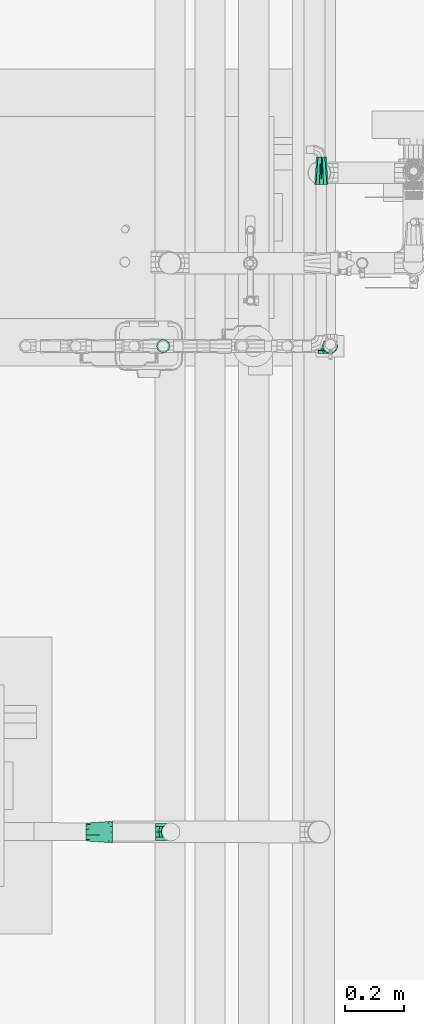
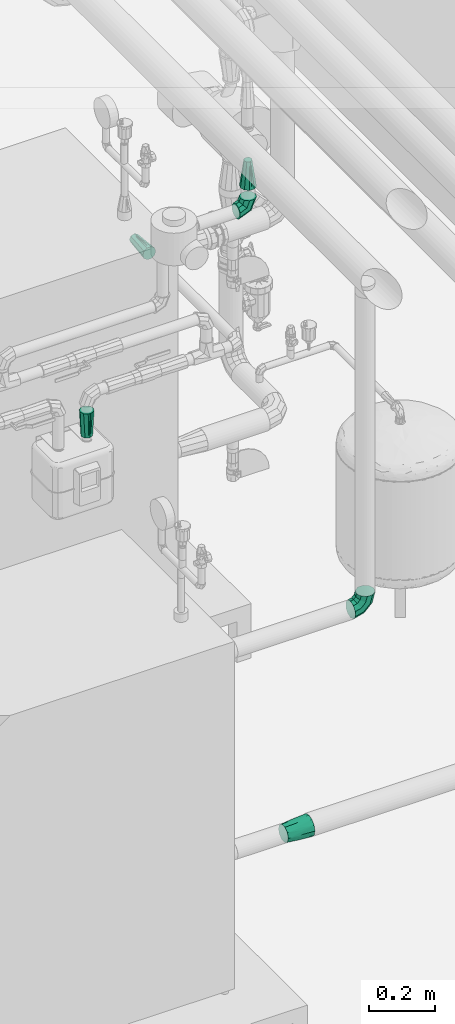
# One storey, part 32 of 43: 6 flow fittings.
"""IFC2X3 building model written with IfcOpenShell, lengths in millimetres."""

from ifc_helpers import new_model, entity, si_unit, converted_unit, derived_unit, direction, frame, origin, place, context, subcontext, project, spatial, faceted_brep, source, transform, mapped, material, material_list, type_object, type_shapes, element, save


model = new_model("IFC2X3")

# Units and contexts
model_context = context("Model", 3, precision=0.01, world=origin(), true_north=direction((6.123031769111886e-17, 1.0)))
body_context = subcontext(model_context, "Body", "Model", "MODEL_VIEW")
ifc_project = project(units=[si_unit("LENGTHUNIT", "METRE", prefix="MILLI"), si_unit("AREAUNIT", "SQUARE_METRE"), si_unit("VOLUMEUNIT", "CUBIC_METRE"), converted_unit("PLANEANGLEUNIT", "DEGREE", entity("IfcRatioMeasure", 0.017453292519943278), si_unit("PLANEANGLEUNIT", "RADIAN"), dimensions=[0, 0, 0, 0, 0, 0, 0]), si_unit("MASSUNIT", "GRAM", prefix="KILO"), derived_unit("MASSDENSITYUNIT", [(si_unit("MASSUNIT", "GRAM", prefix="KILO"), 1), (si_unit("LENGTHUNIT", "METRE"), -3)]), derived_unit("MOMENTOFINERTIAUNIT", [(si_unit("LENGTHUNIT", "METRE"), 4)]), si_unit("TIMEUNIT", "SECOND"), si_unit("FREQUENCYUNIT", "HERTZ"), si_unit("THERMODYNAMICTEMPERATUREUNIT", "DEGREE_CELSIUS"), derived_unit("THERMALTRANSMITTANCEUNIT", [(si_unit("MASSUNIT", "GRAM", prefix="KILO"), 1), (si_unit("THERMODYNAMICTEMPERATUREUNIT", "KELVIN"), -1), (si_unit("TIMEUNIT", "SECOND"), -3)]), derived_unit("VOLUMETRICFLOWRATEUNIT", [(si_unit("LENGTHUNIT", "METRE"), 3), (si_unit("TIMEUNIT", "SECOND"), -1)]), derived_unit("MASSFLOWRATEUNIT", [(si_unit("MASSUNIT", "GRAM", prefix="KILO"), 1), (si_unit("TIMEUNIT", "SECOND"), -1)]), derived_unit("ROTATIONALFREQUENCYUNIT", [(si_unit("TIMEUNIT", "SECOND"), -1)]), si_unit("ELECTRICCURRENTUNIT", "AMPERE"), si_unit("ELECTRICVOLTAGEUNIT", "VOLT"), si_unit("POWERUNIT", "WATT"), si_unit("FORCEUNIT", "NEWTON", prefix="KILO"), si_unit("ILLUMINANCEUNIT", "LUX"), si_unit("LUMINOUSFLUXUNIT", "LUMEN"), si_unit("LUMINOUSINTENSITYUNIT", "CANDELA"), derived_unit("USERDEFINED", [(si_unit("MASSUNIT", "GRAM", prefix="KILO"), -1), (si_unit("LENGTHUNIT", "METRE"), -2), (si_unit("TIMEUNIT", "SECOND"), 3), (si_unit("LUMINOUSFLUXUNIT", "LUMEN"), 1)]), derived_unit("SOUNDPOWERUNIT", [(si_unit("MASSUNIT", "GRAM", prefix="KILO"), 1), (si_unit("LENGTHUNIT", "METRE"), 2), (si_unit("TIMEUNIT", "SECOND"), -3)]), derived_unit("SOUNDPRESSUREUNIT", [(si_unit("MASSUNIT", "GRAM", prefix="KILO"), 1), (si_unit("LENGTHUNIT", "METRE"), -1), (si_unit("TIMEUNIT", "SECOND"), -2)]), derived_unit("LINEARVELOCITYUNIT", [(si_unit("LENGTHUNIT", "METRE"), 1), (si_unit("TIMEUNIT", "SECOND"), -1)]), si_unit("PRESSUREUNIT", "PASCAL"), derived_unit("USERDEFINED", [(si_unit("LENGTHUNIT", "METRE"), -2), (si_unit("MASSUNIT", "GRAM", prefix="KILO"), 1), (si_unit("TIMEUNIT", "SECOND"), -2)]), derived_unit("LINEARFORCEUNIT", [(si_unit("MASSUNIT", "GRAM", prefix="KILO"), 1), (si_unit("LENGTHUNIT", "METRE"), 1), (si_unit("TIMEUNIT", "SECOND"), -2), (si_unit("LENGTHUNIT", "METRE"), -1)]), derived_unit("PLANARFORCEUNIT", [(si_unit("MASSUNIT", "GRAM", prefix="KILO"), 1), (si_unit("LENGTHUNIT", "METRE"), 1), (si_unit("TIMEUNIT", "SECOND"), -2), (si_unit("LENGTHUNIT", "METRE"), -2)])], contexts=[model_context])

# Site, building, storey
site_placement = place(None, origin())
site = spatial("IfcSite", under=ifc_project, at=site_placement, Name="Default", CompositionType="ELEMENT")
building_placement = place(site_placement, origin())
building = spatial("IfcBuilding", under=site, at=building_placement, CompositionType="ELEMENT")
storey_placement = place(building_placement, frame((0.0, 0.0, 270.0)))
storey = spatial("IfcBuildingStorey", under=building, at=storey_placement, Name="Niveau 0", CompositionType="ELEMENT", Elevation=270.0)

# Flow fittings
ifc_material = material(Name="<Unnamed>")
pipe_fitting_type_1 = type_object("IfcPipeFittingType", Name="Transformation - Générique:Standard", PredefinedType="NOTDEFINED", material=ifc_material)
shared_shape_1 = source(origin(), body_context, "Body", "Brep", [
    faceted_brep([(89.0, 31.795140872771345, 18.250000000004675), (89.0, 25.115177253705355, 24.92996361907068), (89.0, 18.43521363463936, 31.609927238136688), (89.0, 9.310213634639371, 34.05496361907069), (89.0, 0.18521363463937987, 36.500000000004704), (89.0, -8.93978636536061, 34.054963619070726), (89.0, -18.064786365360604, 31.609927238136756), (89.0, -24.74474998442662, 24.929963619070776), (89.0, -31.424713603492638, 18.250000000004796), (89.0, -33.86974998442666, 9.125000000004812), (89.0, -36.31478636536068, 0.0), (89.0, -33.86974998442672, -9.124999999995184), (89.0, -31.424713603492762, -18.249999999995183), (89.0, -24.7447499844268, -24.9299636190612), (89.0, -18.064786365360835, -31.60992723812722), (89.0, -8.939786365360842, -34.05496361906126), (89.0, 0.1852136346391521, -36.4999999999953), (89.0, 9.310213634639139, -34.05496361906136), (89.0, 18.435213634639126, -31.609927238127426), (89.0, 25.115177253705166, -24.92996361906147), (89.0, 31.79514087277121, -18.24999999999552), (89.0, 34.24017725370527, -9.124999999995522), (89.0, 36.685213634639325, 0.0), (89.0, 34.24017725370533, 9.125000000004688), (0.0, -30.15, 0.0), (0.0, -27.27093119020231, 8.860862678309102), (0.0, -24.39186238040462, 17.72172535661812), (0.0, -16.854362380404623, 23.198039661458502), (0.0, -9.316862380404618, 28.674353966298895), (0.0, 0.0, 28.67435396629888), (0.0, 9.316862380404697, 28.67435396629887), (0.0, 16.854362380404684, 23.198039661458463), (0.0, 24.391862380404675, 17.72172535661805), (0.0, 27.270931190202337, 8.860862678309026), (0.0, 30.15, 0.0), (0.0, 27.270931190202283, -8.860862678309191), (0.0, 24.391862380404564, -17.721725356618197), (0.0, 16.85436238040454, -23.19803966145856), (0.0, 9.316862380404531, -28.67435396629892), (0.0, 0.0, -28.67435396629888), (0.0, -9.316862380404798, -28.67435396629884), (0.0, -16.854362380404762, -23.19803966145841), (0.0, -24.391862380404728, -17.721725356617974), (0.0, -27.27093119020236, -8.860862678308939), (42.752847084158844, -32.22508481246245, -7.620014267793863), (42.45671230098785, -29.995724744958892, -13.993157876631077), (48.81344758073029, -10.22721723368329, -32.00747157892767), (39.138828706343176, -15.405505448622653, -29.075106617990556), (49.366075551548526, -26.611207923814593, -20.4983284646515), (44.37529921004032, -21.5787039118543, -25.304707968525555), (44.37530003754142, 25.397055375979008, -21.671051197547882), (39.13882756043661, 29.15655672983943, -15.486954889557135), (44.500000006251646, -4.257178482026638, -33.03990001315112), (45.84288008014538, 10.967168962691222, -31.60309099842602), (49.366075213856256, 20.601061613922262, -26.713941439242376), (44.721437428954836, 31.99238002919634, -9.697564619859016), (44.50000006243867, 4.442392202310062, -33.039900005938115), (44.50000000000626, -33.23239318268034, 0.0), (40.79708963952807, -32.975902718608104, 0.0), (40.79708963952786, 33.14570445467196, 0.0), (44.50000000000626, 33.41760681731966, 0.0), (42.752847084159, 32.40302661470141, 7.620014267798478), (42.45671230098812, 30.172434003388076, 13.993157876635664), (48.8134475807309, 10.430383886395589, 32.00747157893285), (39.13882870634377, 15.568405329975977, 29.075106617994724), (49.36607555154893, 26.81667467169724, 20.498328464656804), (44.37529921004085, 21.76339852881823, 25.30470796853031), (44.37530003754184, -25.212360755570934, 21.671051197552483), (39.13882756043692, -28.99365685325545, 15.486954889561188), (44.500000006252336, 4.442392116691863, 33.03990001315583), (45.84288008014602, -10.776366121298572, 31.603090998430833), (49.36607521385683, -20.39559486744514, 26.713941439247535), (44.72143742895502, -31.806244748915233, 9.697564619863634), (44.500000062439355, -4.257178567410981, 33.039900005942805)], [[[0, 1, 2, 3, 4, 5, 6, 7, 8, 9, 10, 11, 12, 13, 14, 15, 16, 17, 18, 19, 20, 21, 22, 23]], [[24, 25, 26, 27, 28, 29, 30, 31, 32, 33, 34, 35, 36, 37, 38, 39, 40, 41, 42, 43]], [[44, 45, 11]], [[14, 46, 15]], [[41, 40, 47]], [[13, 48, 49]], [[42, 49, 48]], [[50, 51, 20]], [[45, 48, 12]], [[49, 14, 13]], [[15, 52, 16]], [[48, 45, 42]], [[53, 37, 54]], [[43, 45, 44]], [[45, 12, 11]], [[55, 51, 35]], [[12, 48, 13]], [[16, 56, 17]], [[44, 10, 57, 58, 24]], [[53, 54, 18]], [[59, 55, 34]], [[49, 42, 41]], [[42, 45, 43]], [[39, 52, 40]], [[39, 38, 56]], [[49, 41, 47]], [[47, 14, 49]], [[40, 52, 46]], [[14, 47, 46]], [[53, 17, 56]], [[56, 16, 52]], [[24, 43, 44]], [[52, 15, 46]], [[56, 52, 39]], [[53, 56, 38]], [[19, 54, 50]], [[18, 17, 53]], [[53, 38, 37]], [[20, 19, 50]], [[18, 54, 19]], [[50, 37, 36]], [[37, 50, 54]], [[50, 36, 51]], [[36, 35, 51]], [[59, 21, 55]], [[55, 35, 34]], [[20, 51, 55]], [[21, 59, 60, 22]], [[20, 55, 21]], [[10, 44, 11]], [[40, 46, 47]], [[61, 62, 23]], [[2, 63, 3]], [[31, 30, 64]], [[1, 65, 66]], [[32, 66, 65]], [[67, 68, 8]], [[62, 65, 0]], [[66, 2, 1]], [[3, 69, 4]], [[65, 62, 32]], [[70, 27, 71]], [[33, 62, 61]], [[62, 0, 23]], [[72, 68, 25]], [[0, 65, 1]], [[4, 73, 5]], [[61, 22, 60, 59, 34]], [[70, 71, 6]], [[58, 72, 24]], [[66, 32, 31]], [[32, 62, 33]], [[29, 69, 30]], [[29, 28, 73]], [[66, 31, 64]], [[64, 2, 66]], [[30, 69, 63]], [[2, 64, 63]], [[70, 5, 73]], [[73, 4, 69]], [[34, 33, 61]], [[69, 3, 63]], [[73, 69, 29]], [[70, 73, 28]], [[7, 71, 67]], [[6, 5, 70]], [[70, 28, 27]], [[8, 7, 67]], [[6, 71, 7]], [[67, 27, 26]], [[27, 67, 71]], [[67, 26, 68]], [[26, 25, 68]], [[58, 9, 72]], [[72, 25, 24]], [[8, 68, 72]], [[9, 58, 57, 10]], [[8, 72, 9]], [[22, 61, 23]], [[30, 63, 64]]]),
])
type_shapes(pipe_fitting_type_1, [shared_shape_1])
flow_fitting_1_placement = place(storey_placement, frame((-2785.26625610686, -11531.554320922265, 583.499999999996), z_axis=(0.0, 0.0, 1.0), x_axis=(0.9999991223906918, -0.0013248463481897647, 0.0)))
element("IfcFlowFitting", 1, at=flow_fitting_1_placement, inside=storey, type_object=pipe_fitting_type_1, material=ifc_material, Name="Transformation - Générique:Standard", ObjectType="Transformation - Générique:Standard", context=body_context, shape_type="MappedRepresentation", body=[
    mapped(shared_shape_1, transform((0.0, 0.0, 0.0), scale=1.0)),
])
ifc_material_list_1 = material_list([ifc_material, ifc_material])
ifc_material_list_2 = material_list([ifc_material, ifc_material])
pipe_fitting_type_2 = type_object("IfcPipeFittingType", Name="Coude - Générique:Standard", PredefinedType="NOTDEFINED", material=ifc_material_list_2)
shared_shape_2 = source(origin(), body_context, "Body", "Brep", [
    faceted_brep([(19.277961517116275, 10.424999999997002, 0.0), (14.291268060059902, 13.304068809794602, -17.72172535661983), (24.391862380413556, 51.0, -17.72172535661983), (30.150000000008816, 51.0, 0.0), (1.2359350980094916, 20.841568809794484, -28.674353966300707), (9.316862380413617, 51.0, -28.674353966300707), (-14.901343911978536, 30.15843119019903, -28.674353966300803), (-9.316862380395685, 51.0, -28.674353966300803), (-27.956676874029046, 37.69593119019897, -17.721725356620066), (-24.391862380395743, 51.0, -17.721725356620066), (-32.94337033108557, 40.57499999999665, 0.0), (-30.149999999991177, 51.0, 0.0), (-27.956676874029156, 37.69593119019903, 17.721725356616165), (-24.391862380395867, 51.0, 17.721725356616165), (-14.90134391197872, 30.158431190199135, 28.67435396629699), (-9.316862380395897, 51.0, 28.67435396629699), (1.235935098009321, 20.841568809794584, 28.674353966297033), (9.316862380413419, 51.0, 28.674353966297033), (14.291268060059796, 13.304068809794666, 17.721725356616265), (24.391862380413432, 51.0, 17.721725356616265), (-10.424999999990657, -19.277961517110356, 0.0), (-13.304068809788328, -14.291268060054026, -17.72172535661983), (-20.841568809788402, -1.2359350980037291, -28.674353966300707), (-30.158431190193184, 14.90134391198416, -28.674353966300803), (-37.69593119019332, 27.95667687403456, -17.721725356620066), (-40.57499999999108, 32.94337033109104, 0.0), (-37.695931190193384, 27.95667687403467, 17.721725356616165), (-30.15843119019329, 14.901343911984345, 28.67435396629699), (-20.8415688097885, -1.2359350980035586, 28.674353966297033), (-13.304068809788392, -14.29126806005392, 17.721725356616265), (-51.0, -30.1500000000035, 0.0), (-51.0, -24.39186238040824, -17.72172535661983), (-51.0, -9.316862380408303, -28.674353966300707), (-51.0, 9.316862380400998, -28.674353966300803), (-51.0, 24.391862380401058, -17.721725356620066), (-51.0, 30.149999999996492, 0.0), (-51.0, 24.39186238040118, 17.721725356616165), (-51.0, 9.316862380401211, 28.67435396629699), (-51.0, -9.316862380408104, 28.674353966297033), (-51.0, -24.391862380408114, 17.721725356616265)], [[[0, 1, 2, 3]], [[1, 4, 5, 2]], [[4, 6, 7, 5]], [[6, 8, 9, 7]], [[8, 10, 11, 9]], [[10, 12, 13, 11]], [[12, 14, 15, 13]], [[14, 16, 17, 15]], [[16, 18, 19, 17]], [[18, 0, 3, 19]], [[20, 21, 1, 0]], [[21, 22, 4, 1]], [[22, 23, 6, 4]], [[23, 24, 8, 6]], [[24, 25, 10, 8]], [[25, 26, 12, 10]], [[26, 27, 14, 12]], [[27, 28, 16, 14]], [[28, 29, 18, 16]], [[29, 20, 0, 18]], [[30, 31, 21, 20]], [[31, 32, 22, 21]], [[32, 33, 23, 22]], [[33, 34, 24, 23]], [[34, 35, 25, 24]], [[35, 36, 26, 25]], [[36, 37, 27, 26]], [[37, 38, 28, 27]], [[38, 39, 29, 28]], [[39, 30, 20, 29]], [[3, 2, 5, 7, 9, 11, 13, 15, 17, 19]], [[39, 38, 37, 36, 35, 34, 33, 32, 31, 30]]]),
])
type_shapes(pipe_fitting_type_2, [shared_shape_2])
flow_fitting_2_placement = place(storey_placement, frame((-2499.9998786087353, -11530.9462133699, 1326.500000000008), z_axis=(-0.0015018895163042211, -0.9999988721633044, 0.0), x_axis=(0.9999988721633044, -0.0015018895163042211, 0.0)))
element("IfcFlowFitting", 2, at=flow_fitting_2_placement, inside=storey, type_object=pipe_fitting_type_2, material=ifc_material_list_1, Name="Coude - Générique:Standard", ObjectType="Coude - Générique:Standard", context=body_context, shape_type="MappedRepresentation", body=[
    mapped(shared_shape_2, transform((0.0, 0.0, 0.0), scale=1.0)),
])
pipe_fitting_type_3 = type_object("IfcPipeFittingType", Name="Transformation - Générique:Standard", PredefinedType="NOTDEFINED", material=ifc_material)
shared_shape_3 = source(origin(), body_context, "Body", "Brep", [
    faceted_brep([(91.44531250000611, 18.37195428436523, -13.348006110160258), (91.44531250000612, 19.456211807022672, -10.011004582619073), (91.44531250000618, 20.540469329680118, -6.674003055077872), (91.44531250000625, 22.708984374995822, 0.0), (91.44531250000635, 20.540469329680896, 6.674003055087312), (91.44531250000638, 18.371954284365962, 13.348006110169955), (91.44531250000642, 15.533331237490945, 15.4103864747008), (91.44531250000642, 12.694708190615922, 17.472766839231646), (91.44531250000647, 7.017462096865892, 21.597527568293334), (91.44531250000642, 0.0, 21.5975275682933), (91.44531250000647, -7.017462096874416, 21.597527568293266), (91.44531250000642, -12.694708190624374, 17.472766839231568), (91.44531250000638, -18.371954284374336, 13.348006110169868), (91.44531250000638, -19.456211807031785, 10.011004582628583), (91.44531250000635, -20.540469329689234, 6.67400305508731), (91.44531250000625, -22.70898437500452, 0.0), (91.44531250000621, -20.540469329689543, -6.674003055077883), (91.44531250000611, -18.371954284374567, -13.348006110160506), (91.44531250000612, -15.533331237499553, -15.410386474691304), (91.44531250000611, -12.694708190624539, -17.472766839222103), (91.44531250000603, -7.017462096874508, -21.5975275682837), (91.44531250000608, 0.0, -21.597527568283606), (91.44531250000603, 7.017462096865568, -21.597527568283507), (91.44531250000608, 12.6947081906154, -17.472766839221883), (0.0, 16.699999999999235, 0.0), (0.0, 15.477170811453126, -2.9521708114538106), (0.0, 14.254341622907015, -5.904341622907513), (0.0, 13.031512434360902, -8.856512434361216), (0.0, 11.808683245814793, -11.808683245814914), (0.0, 8.856512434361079, -13.03151243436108), (0.0, 5.904341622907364, -14.254341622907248), (0.0, 2.95217081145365, -15.477170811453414), (0.0, 0.0, -16.69999999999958), (0.0, -2.952170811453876, -15.477170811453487), (0.0, -5.904341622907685, -14.254341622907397), (0.0, -8.856512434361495, -13.031512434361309), (0.0, -11.808683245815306, -11.808683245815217), (0.0, -13.03151243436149, -8.856512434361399), (0.0, -14.254341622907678, -5.904341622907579), (0.0, -15.477170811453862, -2.952170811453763), (0.0, -16.699999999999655, 0.0), (0.0, -15.477170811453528, 2.952170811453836), (0.0, -14.2543416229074, 5.9043416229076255), (0.0, -13.031512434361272, 8.856512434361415), (0.0, -11.808683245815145, 11.808683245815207), (0.0, -8.856512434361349, 13.031512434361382), (0.0, -5.904341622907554, 14.25434162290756), (0.0, -2.9521708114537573, 15.477170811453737), (0.0, 0.0, 16.699999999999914), (0.0, 2.952170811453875, 15.477170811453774), (0.0, 5.904341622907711, 14.254341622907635), (0.0, 8.856512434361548, 13.031512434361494), (0.0, 11.808683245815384, 11.808683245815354), (0.0, 13.031512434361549, 8.856512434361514), (0.0, 14.254341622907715, 5.904341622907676), (0.0, 15.47717081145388, 2.952170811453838)], [[[0, 1, 2, 3, 4, 5, 6, 7, 8, 9, 10, 11, 12, 13, 14, 15, 16, 17, 18, 19, 20, 21, 22, 23]], [[24, 25, 26, 27, 28, 29, 30, 31, 32, 33, 34, 35, 36, 37, 38, 39, 40, 41, 42, 43, 44, 45, 46, 47, 48, 49, 50, 51, 52, 53, 54, 55]], [[0, 28, 27]], [[38, 17, 16]], [[36, 19, 18, 17]], [[26, 2, 1]], [[20, 19, 34]], [[21, 31, 22]], [[20, 33, 21]], [[21, 33, 32]], [[35, 34, 19, 36]], [[15, 39, 16]], [[3, 25, 24]], [[28, 0, 23]], [[23, 30, 29, 28]], [[3, 2, 25]], [[39, 15, 40]], [[17, 38, 37, 36]], [[31, 30, 22]], [[31, 21, 32]], [[20, 34, 33]], [[26, 25, 2]], [[0, 27, 1]], [[27, 26, 1]], [[30, 23, 22]], [[39, 38, 16]], [[12, 44, 43]], [[54, 5, 4]], [[52, 7, 6, 5]], [[42, 14, 13]], [[8, 7, 50]], [[9, 47, 10]], [[8, 49, 9]], [[9, 49, 48]], [[51, 50, 7, 52]], [[3, 55, 4]], [[15, 41, 40]], [[44, 12, 11]], [[11, 46, 45, 44]], [[15, 14, 41]], [[55, 3, 24]], [[5, 54, 53, 52]], [[47, 46, 10]], [[47, 9, 48]], [[8, 50, 49]], [[42, 41, 14]], [[12, 43, 13]], [[43, 42, 13]], [[46, 11, 10]], [[55, 54, 4]]]),
])
type_shapes(pipe_fitting_type_3, [shared_shape_3])
flow_fitting_3_placement = place(storey_placement, frame((-1992.600009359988, -9257.499999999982, 1120.5000000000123), z_axis=(0.0, 0.0, 1.0), x_axis=(0.0, -1.0, 0.0)))
element("IfcFlowFitting", 3, at=flow_fitting_3_placement, inside=storey, type_object=pipe_fitting_type_3, material=ifc_material, Name="Transformation - Générique:Standard", ObjectType="Transformation - Générique:Standard", context=body_context, shape_type="MappedRepresentation", body=[
    mapped(shared_shape_3, transform((0.0, 0.0, 0.0), scale=1.0)),
])
pipe_fitting_type_4 = type_object("IfcPipeFittingType", Name="Transformation - Générique:Standard", PredefinedType="NOTDEFINED", material=ifc_material)
shared_shape_4 = source(origin(), body_context, "Body", "Brep", [
    faceted_brep([(91.44531250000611, 18.37195428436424, -13.348006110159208), (91.44531250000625, 19.456211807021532, -10.011004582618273), (91.44531250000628, 20.540469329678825, -6.674003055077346), (91.44531250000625, 22.70898437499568, 0.0), (91.44531250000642, 20.540469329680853, 6.6740030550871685), (91.44531250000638, 18.371954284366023, 13.348006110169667), (91.44531250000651, 15.533331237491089, 15.410386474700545), (91.44531250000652, 12.694708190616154, 17.47276683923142), (91.44531250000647, 7.017462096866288, 21.59752756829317), (91.44531250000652, 0.0, 21.59752756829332), (91.44531250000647, -7.017462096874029, 21.597527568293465), (91.44531250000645, -12.694708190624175, 17.47276683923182), (91.44531250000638, -18.371954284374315, 13.348006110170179), (91.44531250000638, -19.45621180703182, 10.011004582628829), (91.44531250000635, -20.54046932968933, 6.674003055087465), (91.44531250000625, -22.708984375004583, 0.0), (91.44531250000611, -20.540469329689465, -6.674003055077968), (91.44531250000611, -18.371954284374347, -13.348006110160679), (91.44531250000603, -15.533331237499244, -15.410386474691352), (91.44531250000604, -12.694708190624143, -17.472766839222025), (91.44531250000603, -7.017462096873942, -21.597527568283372), (91.44531250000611, 0.0, -21.597527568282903), (91.44531250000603, 7.017462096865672, -21.59752756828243), (91.44531250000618, 12.694708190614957, -17.472766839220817), (0.0, 18.708984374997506, 0.0), (0.0, 17.33905071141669, -3.307312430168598), (0.0, 15.96911704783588, -6.614624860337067), (0.0, 14.599183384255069, -9.921937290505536), (0.0, 13.229249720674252, -13.229249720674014), (0.0, 9.921937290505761, -14.599183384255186), (0.0, 6.614624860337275, -15.969117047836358), (0.0, 3.307312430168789, -17.339050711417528), (0.0, 0.0, -18.7089843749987), (0.0, -3.3073124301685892, -17.3390507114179), (0.0, -6.61462486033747, -15.969117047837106), (0.0, -9.921937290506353, -14.59918338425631), (0.0, -13.229249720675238, -13.229249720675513), (0.0, -14.599183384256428, -9.921937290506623), (0.0, -15.969117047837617, -6.614624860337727), (0.0, -17.33905071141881, -3.3073124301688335), (0.0, -18.708984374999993, 0.0), (0.0, -17.33905071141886, 3.3073124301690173), (0.0, -15.969117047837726, 6.614624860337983), (0.0, -14.599183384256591, 9.921937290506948), (0.0, -13.229249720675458, 13.229249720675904), (0.0, -9.921937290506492, 14.599183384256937), (0.0, -6.6146248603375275, 15.969117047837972), (0.0, -3.307312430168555, 17.339050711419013), (0.0, 0.0, 18.708984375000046), (0.0, 3.3073124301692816, 17.339050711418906), (0.0, 6.614624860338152, 15.969117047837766), (0.0, 9.921937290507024, 14.599183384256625), (0.0, 13.229249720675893, 13.229249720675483), (0.0, 14.599183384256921, 9.921937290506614), (0.0, 15.969117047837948, 6.614624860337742), (0.0, 17.339050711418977, 3.307312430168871)], [[[0, 1, 2, 3, 4, 5, 6, 7, 8, 9, 10, 11, 12, 13, 14, 15, 16, 17, 18, 19, 20, 21, 22, 23]], [[24, 25, 26, 27, 28, 29, 30, 31, 32, 33, 34, 35, 36, 37, 38, 39, 40, 41, 42, 43, 44, 45, 46, 47, 48, 49, 50, 51, 52, 53, 54, 55]], [[0, 28, 27]], [[38, 17, 16]], [[36, 19, 18, 17]], [[26, 2, 1]], [[20, 19, 34]], [[21, 31, 22]], [[20, 33, 21]], [[21, 33, 32]], [[35, 34, 19, 36]], [[17, 38, 37, 36]], [[3, 25, 24]], [[28, 0, 23]], [[23, 30, 29, 28]], [[3, 2, 25]], [[15, 39, 16]], [[31, 30, 22]], [[31, 21, 32]], [[20, 34, 33]], [[39, 15, 40]], [[26, 25, 2]], [[0, 27, 1]], [[27, 26, 1]], [[30, 23, 22]], [[39, 38, 16]], [[12, 44, 43]], [[54, 5, 4]], [[52, 7, 6, 5]], [[42, 14, 13]], [[8, 7, 50]], [[9, 47, 10]], [[8, 49, 9]], [[9, 49, 48]], [[51, 50, 7, 52]], [[5, 54, 53, 52]], [[15, 41, 40]], [[44, 12, 11]], [[11, 46, 45, 44]], [[15, 14, 41]], [[3, 55, 4]], [[47, 46, 10]], [[47, 9, 48]], [[8, 50, 49]], [[55, 3, 24]], [[42, 41, 14]], [[12, 43, 13]], [[43, 42, 13]], [[46, 11, 10]], [[55, 54, 4]]]),
])
type_shapes(pipe_fitting_type_4, [shared_shape_4])
flow_fitting_4_placement = place(storey_placement, frame((-2525.5000000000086, -9894.089173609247, 968.8269224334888), z_axis=(0.0, -1.0, 0.0), x_axis=(0.0, 0.0, 1.0)))
element("IfcFlowFitting", 4, at=flow_fitting_4_placement, inside=storey, type_object=pipe_fitting_type_4, material=ifc_material, Name="Transformation - Générique:Standard", ObjectType="Transformation - Générique:Standard", context=body_context, shape_type="MappedRepresentation", body=[
    mapped(shared_shape_4, transform((0.0, 0.0, 0.0), scale=1.0)),
])
pipe_fitting_type_5 = type_object("IfcPipeFittingType", Name="Transformation - Générique:Standard", PredefinedType="NOTDEFINED", material=ifc_material)
shared_shape_5 = source(origin(), body_context, "Body", "Brep", [
    faceted_brep([(95.64531250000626, -26.208984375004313, 0.0), (95.64531250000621, -23.706249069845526, -7.702627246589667), (95.6453125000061, -21.203513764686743, -15.405254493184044), (95.64531250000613, -17.92739071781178, -17.785497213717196), (95.64531250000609, -14.651267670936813, -20.165739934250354), (95.645312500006, -8.099021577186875, -24.926225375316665), (95.64531250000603, 0.0, -24.926225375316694), (95.645312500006, 8.099021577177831, -24.926225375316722), (95.6453125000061, 14.651267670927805, -20.165739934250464), (95.6453125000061, 21.20351376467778, -15.4052544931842), (95.64531250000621, 22.454881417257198, -11.553940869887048), (95.64531250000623, 23.70624906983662, -7.702627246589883), (95.64531250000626, 26.208984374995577, 0.0), (95.64531250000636, 23.706249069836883, 7.7026272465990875), (95.64531250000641, 21.203513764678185, 15.405254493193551), (95.64531250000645, 17.92739071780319, 17.7854972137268), (95.64531250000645, 14.651267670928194, 20.16573993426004), (95.64531250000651, 8.099021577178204, 24.92622537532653), (95.64531250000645, 0.0, 24.926225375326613), (95.64531250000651, -8.09902157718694, 24.92622537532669), (95.64531250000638, -14.651267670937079, 20.165739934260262), (95.64531250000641, -21.203513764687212, 15.40525449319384), (95.64531250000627, -22.454881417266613, 11.553940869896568), (95.64531250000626, -23.706249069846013, 7.702627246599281), (0.0, -9.439875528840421, -9.439875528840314), (0.0, -10.41740664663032, -7.079906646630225), (0.0, -11.39493776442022, -4.719937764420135), (0.0, -12.37246888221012, -2.3599688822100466), (0.0, -13.350000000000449, 0.0), (0.0, -12.37246888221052, 2.3599688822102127), (0.0, -11.394937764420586, 4.719937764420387), (0.0, -10.417406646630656, 7.079906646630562), (0.0, -9.439875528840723, 9.439875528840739), (0.0, -7.079906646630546, 10.417406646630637), (0.0, -4.719937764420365, 11.394937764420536), (0.0, -2.359968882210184, 12.372468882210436), (0.0, 0.0, 13.350000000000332), (0.0, 2.359968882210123, 12.37246888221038), (0.0, 4.719937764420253, 11.394937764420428), (0.0, 7.079906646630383, 10.417406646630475), (0.0, 9.439875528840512, 9.439875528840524), (0.0, 10.41740664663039, 7.079906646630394), (0.0, 11.394937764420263, 4.719937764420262), (0.0, 12.372468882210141, 2.3599688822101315), (0.0, 13.349999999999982, 0.0), (0.0, 12.372468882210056, -2.3599688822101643), (0.0, 11.394937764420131, -4.719937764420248), (0.0, 10.417406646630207, -7.079906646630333), (0.0, 9.43987552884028, -9.439875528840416), (0.0, 7.079906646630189, -10.417406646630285), (0.0, 4.719937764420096, -11.394937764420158), (0.0, 2.359968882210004, -12.372468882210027), (0.0, 0.0, -13.349999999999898), (0.0, -2.359968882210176, -12.37246888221), (0.0, -4.719937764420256, -11.394937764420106), (0.0, -7.079906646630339, -10.41740664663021)], [[[0, 1, 2, 3, 4, 5, 6, 7, 8, 9, 10, 11, 12, 13, 14, 15, 16, 17, 18, 19, 20, 21, 22, 23]], [[24, 25, 26, 27, 28, 29, 30, 31, 32, 33, 34, 35, 36, 37, 38, 39, 40, 41, 42, 43, 44, 45, 46, 47, 48, 49, 50, 51, 52, 53, 54, 55]], [[9, 48, 47]], [[51, 50, 7]], [[24, 4, 3, 2]], [[46, 11, 10]], [[5, 4, 54]], [[0, 27, 1]], [[6, 53, 52]], [[55, 54, 4, 24]], [[6, 51, 7]], [[5, 53, 6]], [[2, 26, 25, 24]], [[12, 45, 44]], [[48, 9, 8]], [[8, 50, 49, 48]], [[12, 11, 45]], [[27, 0, 28]], [[5, 54, 53]], [[51, 6, 52]], [[26, 2, 1]], [[46, 45, 11]], [[9, 47, 10]], [[47, 46, 10]], [[50, 8, 7]], [[27, 26, 1]], [[21, 32, 31]], [[35, 34, 19]], [[40, 16, 15, 14]], [[30, 23, 22]], [[17, 16, 38]], [[12, 43, 13]], [[18, 37, 36]], [[39, 38, 16, 40]], [[18, 35, 19]], [[17, 37, 18]], [[14, 42, 41, 40]], [[0, 29, 28]], [[32, 21, 20]], [[20, 34, 33, 32]], [[0, 23, 29]], [[43, 12, 44]], [[17, 38, 37]], [[35, 18, 36]], [[42, 14, 13]], [[30, 29, 23]], [[21, 31, 22]], [[31, 30, 22]], [[34, 20, 19]], [[43, 42, 13]]]),
])
type_shapes(pipe_fitting_type_5, [shared_shape_5])
flow_fitting_5_placement = place(storey_placement, frame((-1963.487500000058, -9894.089173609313, 1785.826285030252), z_axis=(0.0, -1.0, 0.0), x_axis=(0.0, 0.0, -1.0)))
element("IfcFlowFitting", 5, at=flow_fitting_5_placement, inside=storey, type_object=pipe_fitting_type_5, material=ifc_material, Name="Transformation - Générique:Standard", ObjectType="Transformation - Générique:Standard", context=body_context, shape_type="MappedRepresentation", body=[
    mapped(shared_shape_5, transform((0.0, 0.0, 0.0), scale=1.0)),
])
ifc_material_list_3 = material_list([ifc_material, ifc_material])
ifc_material_list_4 = material_list([ifc_material, ifc_material])
pipe_fitting_type_6 = type_object("IfcPipeFittingType", Name="Coude - Générique:Standard", PredefinedType="NOTDEFINED", material=ifc_material_list_4)
shared_shape_6 = source(origin(), body_context, "Body", "Brep", [
    faceted_brep([(6.42091257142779, -6.420912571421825, 0.0), (2.8815103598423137, -2.881510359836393, -15.405254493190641), (21.203513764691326, 41.35171874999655, -15.405254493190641), (26.208984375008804, 41.35171874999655, 0.0), (-6.384764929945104, 6.384764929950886, -24.926225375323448), (8.099021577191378, 41.35171874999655, -24.926225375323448), (-17.838511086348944, 17.83851108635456, -24.92622537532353), (-8.099021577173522, 41.35171874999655, -24.92622537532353), (-27.10478637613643, 27.104786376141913, -15.405254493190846), (-21.203513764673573, 41.35171874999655, -15.405254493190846), (-30.644188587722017, 30.644188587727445, 0.0), (-26.2089843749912, 41.35171874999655, 0.0), (-27.104786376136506, 27.104786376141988, 15.405254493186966), (-21.20351376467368, 41.35171874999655, 15.405254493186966), (-17.838511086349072, 17.838511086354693, 24.926225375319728), (-8.099021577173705, 41.35171874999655, 24.926225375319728), (-6.384764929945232, 6.38476492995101, 24.926225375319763), (8.099021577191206, 41.35171874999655, 24.926225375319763), (2.8815103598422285, -2.881510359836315, 15.405254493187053), (21.20351376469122, 41.35171874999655, 15.405254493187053), (-41.35171874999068, -26.208984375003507, 0.0), (-41.351718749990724, -21.203513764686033, -15.405254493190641), (-41.351718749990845, -8.099021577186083, -24.926225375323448), (-41.35171874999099, 8.09902157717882, -24.92622537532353), (-41.3517187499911, 21.20351376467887, -15.405254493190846), (-41.35171874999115, 26.208984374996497, 0.0), (-41.3517187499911, 21.203513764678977, 15.405254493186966), (-41.35171874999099, 8.099021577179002, 24.926225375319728), (-41.351718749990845, -8.099021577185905, 24.926225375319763), (-41.351718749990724, -21.20351376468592, 15.405254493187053)], [[[0, 1, 2, 3]], [[1, 4, 5, 2]], [[4, 6, 7, 5]], [[6, 8, 9, 7]], [[8, 10, 11, 9]], [[10, 12, 13, 11]], [[12, 14, 15, 13]], [[14, 16, 17, 15]], [[16, 18, 19, 17]], [[18, 0, 3, 19]], [[20, 21, 1, 0]], [[21, 22, 4, 1]], [[22, 23, 6, 4]], [[23, 24, 8, 6]], [[24, 25, 10, 8]], [[25, 26, 12, 10]], [[26, 27, 14, 12]], [[27, 28, 16, 14]], [[28, 29, 18, 16]], [[29, 20, 0, 18]], [[3, 2, 5, 7, 9, 11, 13, 15, 17, 19]], [[29, 28, 27, 26, 25, 24, 23, 22, 21, 20]]]),
])
type_shapes(pipe_fitting_type_6, [shared_shape_6])
flow_fitting_6_placement = place(storey_placement, frame((-1963.4875000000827, -9894.089173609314, 1610.4797876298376), z_axis=(0.0, 1.0, 0.0), x_axis=(0.0, 0.0, -1.0)))
element("IfcFlowFitting", 6, at=flow_fitting_6_placement, inside=storey, type_object=pipe_fitting_type_6, material=ifc_material_list_3, Name="Coude - Générique:Standard", ObjectType="Coude - Générique:Standard", context=body_context, shape_type="MappedRepresentation", body=[
    mapped(shared_shape_6, transform((0.0, 0.0, 0.0), scale=1.0)),
])

save(model, "model.ifc")
